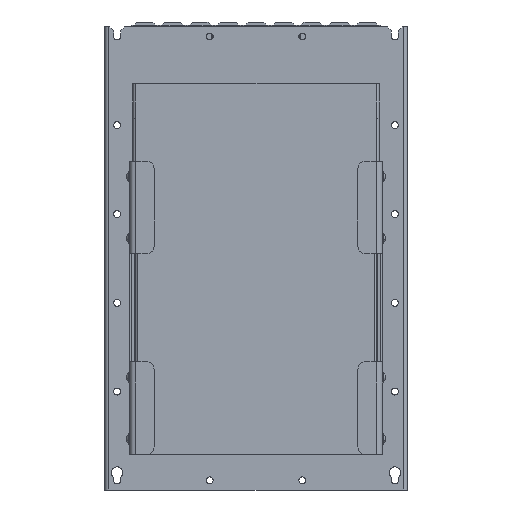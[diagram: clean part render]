
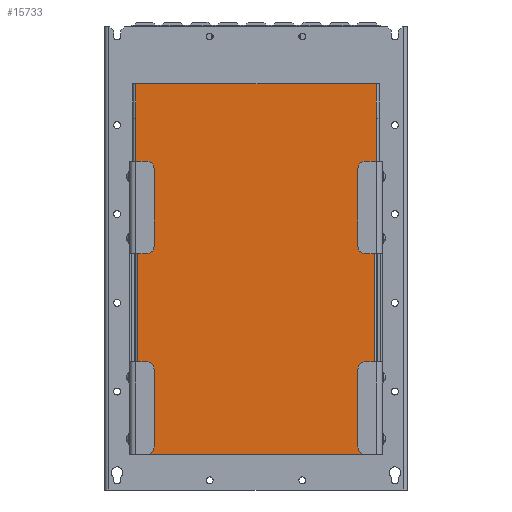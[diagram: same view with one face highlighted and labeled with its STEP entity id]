
A CAD part, front view. The second image highlights one B-rep face of the part: STEP entity #15733.
In plain terms, the highlighted planar face has unit normal (0, -1, 0).
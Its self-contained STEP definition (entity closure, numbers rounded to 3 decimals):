
#326 = CARTESIAN_POINT ( 'NONE',  ( -155.9, -126., 526. ) ) ;
#1912 = VERTEX_POINT ( 'NONE', #29529 ) ;
#2710 = AXIS2_PLACEMENT_3D ( 'NONE', #92688, #83928, #55932 ) ;
#4725 = CARTESIAN_POINT ( 'NONE',  ( 153., -126., -374. ) ) ;
#6468 = ORIENTED_EDGE ( 'NONE', *, *, #108290, .T. ) ;
#7007 = VECTOR ( 'NONE', #71873, 1000. ) ;
#7764 = EDGE_LOOP ( 'NONE', ( #92727, #14921, #6468, #68932, #88828, #35608, #108154, #91554 ) ) ;
#7964 = CARTESIAN_POINT ( 'NONE',  ( -153., -126., 46. ) ) ;
#9351 = EDGE_CURVE ( 'NONE', #10931, #39321, #74045, .T. ) ;
#9901 = EDGE_CURVE ( 'NONE', #93816, #108185, #26517, .T. ) ;
#10931 = VERTEX_POINT ( 'NONE', #115206 ) ;
#12417 = LINE ( 'NONE', #28734, #33387 ) ;
#14921 = ORIENTED_EDGE ( 'NONE', *, *, #91351, .T. ) ;
#15733 = ADVANCED_FACE ( 'NONE', ( #75786 ), #21488, .F. ) ;
#21488 = PLANE ( 'NONE',  #2710 ) ;
#22732 = DIRECTION ( 'NONE',  ( 0., 0., 1. ) ) ;
#22933 = VECTOR ( 'NONE', #82174, 1000. ) ;
#25287 = CARTESIAN_POINT ( 'NONE',  ( 155.9, -126., 426. ) ) ;
#25887 = EDGE_CURVE ( 'NONE', #108185, #74159, #113753, .T. ) ;
#26517 = LINE ( 'NONE', #326, #93836 ) ;
#28734 = CARTESIAN_POINT ( 'NONE',  ( 155.9, -126., 426. ) ) ;
#29529 = CARTESIAN_POINT ( 'NONE',  ( 153., -126., 46. ) ) ;
#30749 = CARTESIAN_POINT ( 'NONE',  ( 0., -126., 426. ) ) ;
#31487 = CARTESIAN_POINT ( 'NONE',  ( -155.9, -126., 426. ) ) ;
#32047 = LINE ( 'NONE', #4725, #61957 ) ;
#32099 = CARTESIAN_POINT ( 'NONE',  ( -159.4, -126., 526. ) ) ;
#33387 = VECTOR ( 'NONE', #57326, 1000. ) ;
#35608 = ORIENTED_EDGE ( 'NONE', *, *, #53824, .T. ) ;
#38642 = VECTOR ( 'NONE', #102177, 1000. ) ;
#39321 = VERTEX_POINT ( 'NONE', #25287 ) ;
#40713 = EDGE_CURVE ( 'NONE', #39321, #85850, #12417, .T. ) ;
#50322 = CARTESIAN_POINT ( 'NONE',  ( -153., -126., 426. ) ) ;
#52327 = EDGE_CURVE ( 'NONE', #74159, #102680, #54381, .T. ) ;
#53824 = EDGE_CURVE ( 'NONE', #85850, #93816, #68351, .T. ) ;
#54381 = LINE ( 'NONE', #63728, #112887 ) ;
#54949 = DIRECTION ( 'NONE',  ( 0., 0., -1. ) ) ;
#55932 = DIRECTION ( 'NONE',  ( 0., 0., -1. ) ) ;
#57326 = DIRECTION ( 'NONE',  ( 0., 0., 1. ) ) ;
#61358 = CARTESIAN_POINT ( 'NONE',  ( 0., -126., 426. ) ) ;
#61957 = VECTOR ( 'NONE', #22732, 1000. ) ;
#63728 = CARTESIAN_POINT ( 'NONE',  ( -153., -126., 426. ) ) ;
#68351 = LINE ( 'NONE', #32099, #38642 ) ;
#68932 = ORIENTED_EDGE ( 'NONE', *, *, #9351, .T. ) ;
#69851 = CARTESIAN_POINT ( 'NONE',  ( 155.9, -126., 526. ) ) ;
#71873 = DIRECTION ( 'NONE',  ( 1., 0., 0. ) ) ;
#73001 = CARTESIAN_POINT ( 'NONE',  ( -164., -126., 46. ) ) ;
#74045 = LINE ( 'NONE', #30749, #22933 ) ;
#74159 = VERTEX_POINT ( 'NONE', #50322 ) ;
#74183 = LINE ( 'NONE', #73001, #7007 ) ;
#75786 = FACE_OUTER_BOUND ( 'NONE', #7764, .T. ) ;
#82174 = DIRECTION ( 'NONE',  ( 1., 0., 0. ) ) ;
#83928 = DIRECTION ( 'NONE',  ( 0., 1., 0. ) ) ;
#84101 = VECTOR ( 'NONE', #88146, 1000. ) ;
#85850 = VERTEX_POINT ( 'NONE', #69851 ) ;
#88146 = DIRECTION ( 'NONE',  ( 1., 0., 0. ) ) ;
#88828 = ORIENTED_EDGE ( 'NONE', *, *, #40713, .T. ) ;
#91351 = EDGE_CURVE ( 'NONE', #102680, #1912, #74183, .T. ) ;
#91554 = ORIENTED_EDGE ( 'NONE', *, *, #25887, .T. ) ;
#92688 = CARTESIAN_POINT ( 'NONE',  ( 144., -126., -374. ) ) ;
#92727 = ORIENTED_EDGE ( 'NONE', *, *, #52327, .T. ) ;
#93816 = VERTEX_POINT ( 'NONE', #111415 ) ;
#93836 = VECTOR ( 'NONE', #97722, 1000. ) ;
#97722 = DIRECTION ( 'NONE',  ( 0., 0., -1. ) ) ;
#102177 = DIRECTION ( 'NONE',  ( -1., 0., 0. ) ) ;
#102680 = VERTEX_POINT ( 'NONE', #7964 ) ;
#108154 = ORIENTED_EDGE ( 'NONE', *, *, #9901, .T. ) ;
#108185 = VERTEX_POINT ( 'NONE', #31487 ) ;
#108290 = EDGE_CURVE ( 'NONE', #1912, #10931, #32047, .T. ) ;
#111415 = CARTESIAN_POINT ( 'NONE',  ( -155.9, -126., 526. ) ) ;
#112887 = VECTOR ( 'NONE', #54949, 1000. ) ;
#113753 = LINE ( 'NONE', #61358, #84101 ) ;
#115206 = CARTESIAN_POINT ( 'NONE',  ( 153., -126., 426. ) ) ;
